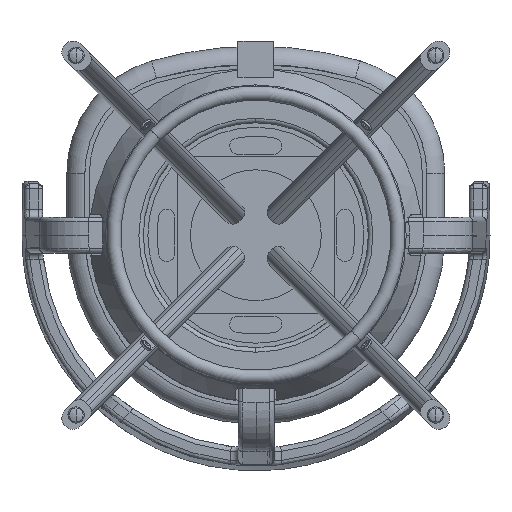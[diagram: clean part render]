
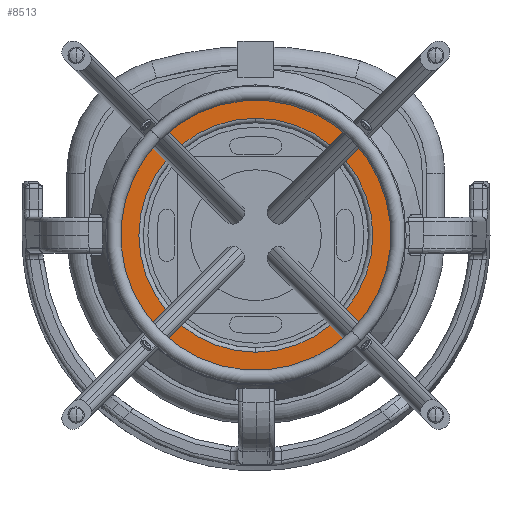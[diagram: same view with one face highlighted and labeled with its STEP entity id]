
A CAD part, front view. The second image highlights one B-rep face of the part: STEP entity #8513.
In plain terms, the highlighted planar face has unit normal (0, -1, 0).
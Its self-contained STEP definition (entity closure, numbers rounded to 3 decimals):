
#327 = DIRECTION ( 'NONE',  ( 1., 0., 0. ) ) ;
#551 = EDGE_LOOP ( 'NONE', ( #27112, #19986 ) ) ;
#1472 = DIRECTION ( 'NONE',  ( 1., 0., 0. ) ) ;
#1578 = DIRECTION ( 'NONE',  ( 1., 0., 0. ) ) ;
#1601 = CARTESIAN_POINT ( 'NONE',  ( -110.75, 644., 103.25 ) ) ;
#1829 = EDGE_CURVE ( 'NONE', #25075, #18496, #13530, .T. ) ;
#2079 = VERTEX_POINT ( 'NONE', #30538 ) ;
#2658 = DIRECTION ( 'NONE',  ( 0., -1., 0. ) ) ;
#2850 = AXIS2_PLACEMENT_3D ( 'NONE', #5184, #16849, #6916 ) ;
#3688 = CIRCLE ( 'NONE', #21047, 160.174 ) ;
#4142 = EDGE_CURVE ( 'NONE', #2079, #13582, #13820, .T. ) ;
#4741 = DIRECTION ( 'NONE',  ( 0., -1., 0. ) ) ;
#5063 = EDGE_LOOP ( 'NONE', ( #9195, #10176 ) ) ;
#5184 = CARTESIAN_POINT ( 'NONE',  ( -103.25, 644., 103.25 ) ) ;
#5204 = CARTESIAN_POINT ( 'NONE',  ( 0., 644., 130. ) ) ;
#5616 = FACE_BOUND ( 'NONE', #21973, .T. ) ;
#5785 = CIRCLE ( 'NONE', #10240, 7.5 ) ;
#5902 = DIRECTION ( 'NONE',  ( 1., 0., 0. ) ) ;
#6187 = VERTEX_POINT ( 'NONE', #13224 ) ;
#6417 = ORIENTED_EDGE ( 'NONE', *, *, #26855, .F. ) ;
#6916 = DIRECTION ( 'NONE',  ( 1., 0., 0. ) ) ;
#6945 = AXIS2_PLACEMENT_3D ( 'NONE', #8106, #29329, #26726 ) ;
#6980 = VERTEX_POINT ( 'NONE', #15878 ) ;
#7528 = CARTESIAN_POINT ( 'NONE',  ( 0., 644., 160.174 ) ) ;
#7536 = EDGE_CURVE ( 'NONE', #18165, #14470, #19273, .T. ) ;
#7808 = FACE_BOUND ( 'NONE', #15609, .T. ) ;
#8106 = CARTESIAN_POINT ( 'NONE',  ( 0., 644., 0. ) ) ;
#8455 = CIRCLE ( 'NONE', #8940, 7.5 ) ;
#8513 = ADVANCED_FACE ( 'NONE', ( #7808, #5616, #22375, #29018, #29478, #9970 ), #19733, .F. ) ;
#8728 = CARTESIAN_POINT ( 'NONE',  ( -95.75, 644., -103.25 ) ) ;
#8940 = AXIS2_PLACEMENT_3D ( 'NONE', #19614, #12356, #24297 ) ;
#9195 = ORIENTED_EDGE ( 'NONE', *, *, #7536, .T. ) ;
#9334 = DIRECTION ( 'NONE',  ( 1., 0., 0. ) ) ;
#9419 = DIRECTION ( 'NONE',  ( 1., 0., 0. ) ) ;
#9970 = FACE_OUTER_BOUND ( 'NONE', #11268, .T. ) ;
#10145 = ORIENTED_EDGE ( 'NONE', *, *, #1829, .F. ) ;
#10176 = ORIENTED_EDGE ( 'NONE', *, *, #25309, .T. ) ;
#10183 = CIRCLE ( 'NONE', #27982, 130. ) ;
#10240 = AXIS2_PLACEMENT_3D ( 'NONE', #25764, #22677, #1578 ) ;
#10628 = DIRECTION ( 'NONE',  ( 0., 1., 0. ) ) ;
#10874 = AXIS2_PLACEMENT_3D ( 'NONE', #25895, #16316, #14116 ) ;
#10980 = VERTEX_POINT ( 'NONE', #18762 ) ;
#11268 = EDGE_LOOP ( 'NONE', ( #6417, #18387 ) ) ;
#11289 = CIRCLE ( 'NONE', #2850, 7.5 ) ;
#12356 = DIRECTION ( 'NONE',  ( 0., 1., 0. ) ) ;
#12397 = CARTESIAN_POINT ( 'NONE',  ( 0., 644., -130. ) ) ;
#12581 = EDGE_CURVE ( 'NONE', #19959, #6187, #17778, .T. ) ;
#12655 = DIRECTION ( 'NONE',  ( 1., 0., 0. ) ) ;
#12921 = ORIENTED_EDGE ( 'NONE', *, *, #29859, .T. ) ;
#13024 = EDGE_CURVE ( 'NONE', #18496, #25075, #10183, .T. ) ;
#13222 = EDGE_LOOP ( 'NONE', ( #20281, #12921 ) ) ;
#13224 = CARTESIAN_POINT ( 'NONE',  ( -110.75, 644., -103.25 ) ) ;
#13530 = CIRCLE ( 'NONE', #16008, 130. ) ;
#13582 = VERTEX_POINT ( 'NONE', #7528 ) ;
#13820 = CIRCLE ( 'NONE', #16311, 160.174 ) ;
#14116 = DIRECTION ( 'NONE',  ( 1., 0., 0. ) ) ;
#14373 = CARTESIAN_POINT ( 'NONE',  ( 103.25, 644., -103.25 ) ) ;
#14470 = VERTEX_POINT ( 'NONE', #28730 ) ;
#15609 = EDGE_LOOP ( 'NONE', ( #10145, #23127 ) ) ;
#15878 = CARTESIAN_POINT ( 'NONE',  ( 95.75, 644., 103.25 ) ) ;
#15889 = CIRCLE ( 'NONE', #16389, 7.5 ) ;
#16008 = AXIS2_PLACEMENT_3D ( 'NONE', #16638, #2658, #327 ) ;
#16048 = AXIS2_PLACEMENT_3D ( 'NONE', #22735, #10628, #1472 ) ;
#16260 = CARTESIAN_POINT ( 'NONE',  ( 0., 644., 0. ) ) ;
#16311 = AXIS2_PLACEMENT_3D ( 'NONE', #16480, #25919, #23786 ) ;
#16316 = DIRECTION ( 'NONE',  ( 0., 1., 0. ) ) ;
#16389 = AXIS2_PLACEMENT_3D ( 'NONE', #14373, #23979, #12655 ) ;
#16480 = CARTESIAN_POINT ( 'NONE',  ( 0., 644., 0. ) ) ;
#16607 = EDGE_CURVE ( 'NONE', #22466, #21642, #26861, .T. ) ;
#16638 = CARTESIAN_POINT ( 'NONE',  ( 0., 644., 0. ) ) ;
#16849 = DIRECTION ( 'NONE',  ( 0., 1., 0. ) ) ;
#17045 = CARTESIAN_POINT ( 'NONE',  ( 110.75, 644., -103.25 ) ) ;
#17778 = CIRCLE ( 'NONE', #27691, 7.5 ) ;
#18165 = VERTEX_POINT ( 'NONE', #17045 ) ;
#18230 = ORIENTED_EDGE ( 'NONE', *, *, #12581, .T. ) ;
#18387 = ORIENTED_EDGE ( 'NONE', *, *, #4142, .F. ) ;
#18496 = VERTEX_POINT ( 'NONE', #5204 ) ;
#18692 = EDGE_CURVE ( 'NONE', #6187, #19959, #25917, .T. ) ;
#18762 = CARTESIAN_POINT ( 'NONE',  ( 110.75, 644., 103.25 ) ) ;
#19273 = CIRCLE ( 'NONE', #10874, 7.5 ) ;
#19614 = CARTESIAN_POINT ( 'NONE',  ( 103.25, 644., 103.25 ) ) ;
#19733 = PLANE ( 'NONE',  #6945 ) ;
#19949 = EDGE_CURVE ( 'NONE', #6980, #10980, #5785, .T. ) ;
#19959 = VERTEX_POINT ( 'NONE', #8728 ) ;
#19986 = ORIENTED_EDGE ( 'NONE', *, *, #19949, .T. ) ;
#20281 = ORIENTED_EDGE ( 'NONE', *, *, #16607, .T. ) ;
#21047 = AXIS2_PLACEMENT_3D ( 'NONE', #24370, #26833, #26227 ) ;
#21642 = VERTEX_POINT ( 'NONE', #1601 ) ;
#21827 = ORIENTED_EDGE ( 'NONE', *, *, #18692, .T. ) ;
#21973 = EDGE_LOOP ( 'NONE', ( #18230, #21827 ) ) ;
#22375 = FACE_BOUND ( 'NONE', #13222, .T. ) ;
#22466 = VERTEX_POINT ( 'NONE', #30589 ) ;
#22677 = DIRECTION ( 'NONE',  ( 0., 1., 0. ) ) ;
#22735 = CARTESIAN_POINT ( 'NONE',  ( -103.25, 644., -103.25 ) ) ;
#23127 = ORIENTED_EDGE ( 'NONE', *, *, #13024, .F. ) ;
#23786 = DIRECTION ( 'NONE',  ( 1., 0., 0. ) ) ;
#23979 = DIRECTION ( 'NONE',  ( 0., 1., 0. ) ) ;
#24297 = DIRECTION ( 'NONE',  ( 1., 0., 0. ) ) ;
#24370 = CARTESIAN_POINT ( 'NONE',  ( 0., 644., 0. ) ) ;
#24969 = CARTESIAN_POINT ( 'NONE',  ( -103.25, 644., -103.25 ) ) ;
#25075 = VERTEX_POINT ( 'NONE', #12397 ) ;
#25278 = EDGE_CURVE ( 'NONE', #10980, #6980, #8455, .T. ) ;
#25309 = EDGE_CURVE ( 'NONE', #14470, #18165, #15889, .T. ) ;
#25764 = CARTESIAN_POINT ( 'NONE',  ( 103.25, 644., 103.25 ) ) ;
#25895 = CARTESIAN_POINT ( 'NONE',  ( 103.25, 644., -103.25 ) ) ;
#25917 = CIRCLE ( 'NONE', #16048, 7.5 ) ;
#25919 = DIRECTION ( 'NONE',  ( 0., 1., 0. ) ) ;
#26227 = DIRECTION ( 'NONE',  ( 1., 0., 0. ) ) ;
#26726 = DIRECTION ( 'NONE',  ( 1., 0., 0. ) ) ;
#26833 = DIRECTION ( 'NONE',  ( 0., 1., 0. ) ) ;
#26855 = EDGE_CURVE ( 'NONE', #13582, #2079, #3688, .T. ) ;
#26861 = CIRCLE ( 'NONE', #30317, 7.5 ) ;
#27112 = ORIENTED_EDGE ( 'NONE', *, *, #25278, .T. ) ;
#27142 = DIRECTION ( 'NONE',  ( 0., 1., 0. ) ) ;
#27691 = AXIS2_PLACEMENT_3D ( 'NONE', #24969, #27142, #5902 ) ;
#27794 = CARTESIAN_POINT ( 'NONE',  ( -103.25, 644., 103.25 ) ) ;
#27932 = DIRECTION ( 'NONE',  ( 0., 1., 0. ) ) ;
#27982 = AXIS2_PLACEMENT_3D ( 'NONE', #16260, #4741, #9419 ) ;
#28730 = CARTESIAN_POINT ( 'NONE',  ( 95.75, 644., -103.25 ) ) ;
#29018 = FACE_BOUND ( 'NONE', #5063, .T. ) ;
#29329 = DIRECTION ( 'NONE',  ( 0., 1., 0. ) ) ;
#29478 = FACE_BOUND ( 'NONE', #551, .T. ) ;
#29859 = EDGE_CURVE ( 'NONE', #21642, #22466, #11289, .T. ) ;
#30317 = AXIS2_PLACEMENT_3D ( 'NONE', #27794, #27932, #9334 ) ;
#30538 = CARTESIAN_POINT ( 'NONE',  ( 0., 644., -160.174 ) ) ;
#30589 = CARTESIAN_POINT ( 'NONE',  ( -95.75, 644., 103.25 ) ) ;
